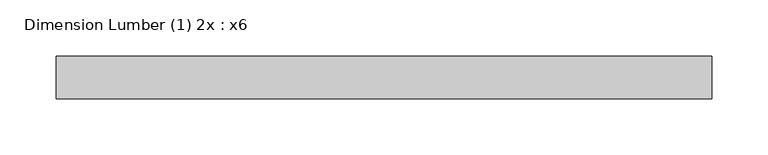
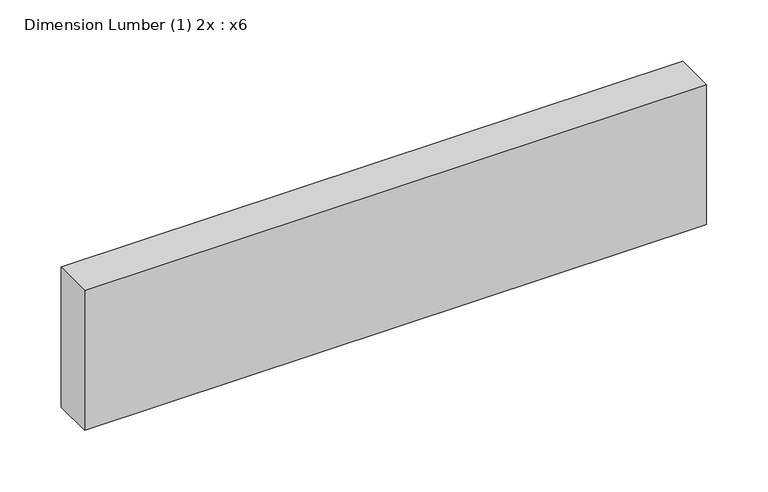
"""IFC4 building model written with IfcOpenShell, lengths in millimetres: beam geometry, Dimension Lumber (1) 2x : x6."""

from ifc_helpers import new_model, si_unit, frame, origin, place, context, project, spatial, polyline, outline, extrude, source, transform, mapped, element, save


def dimension_lumber_1_2x_x6_3ebd03bc(model_context):
    return source(origin(), model_context, "Body", "SweptSolid", [
        extrude(outline(polyline([(270.1501681, -19.05), (-315.3180038, -19.05), (-315.3180038, 19.05), (270.1501681, 19.05), (270.1501681, -19.05)])), frame((0.0, 0.0, -69.85), z_axis=(0.0, 0.0, 1.0), x_axis=(1.0, 0.0, 0.0)), (0.0, 0.0, 1.0), 139.7),
    ])


if __name__ == "__main__":
    model = new_model("IFC4")
    model_context = context("Model", 3, world=origin())
    ifc_project = project(units=[si_unit("LENGTHUNIT", "METRE", prefix="MILLI")], contexts=[model_context])
    site = spatial("IfcSite", under=ifc_project)
    building = spatial("IfcBuilding", under=site)
    placement = place(None, origin())
    dimension_lumber_1_2x_x6_shape = dimension_lumber_1_2x_x6_3ebd03bc(model_context)
    element("IfcBeam", 1, ObjectType="Dimension Lumber (1) 2x : x6", at=placement, inside=building, context=model_context, shape_type="MappedRepresentation", body=[
        mapped(dimension_lumber_1_2x_x6_shape, transform((0.0, 0.0, 0.0), x_axis=(1.0, 0.0, 0.0), y_axis=(0.0, 1.0, 0.0), z_axis=(0.0, 0.0, 1.0))),
    ])
    save(model, "model.ifc")
